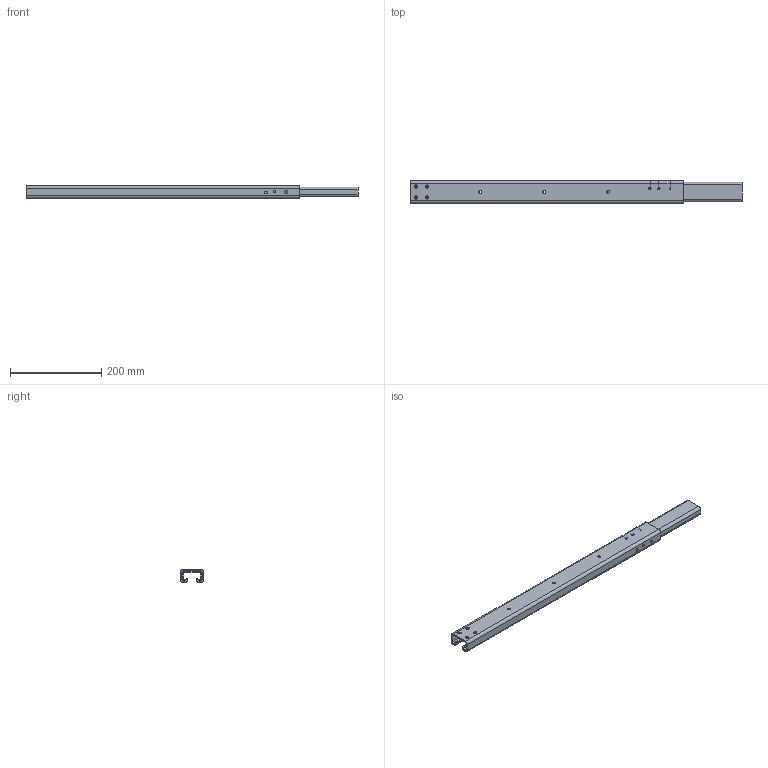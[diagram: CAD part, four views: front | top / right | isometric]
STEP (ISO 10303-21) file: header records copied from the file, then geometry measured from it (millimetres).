
FILE_DESCRIPTION(('CATIA V5 STEP Exchange'),'2;1');
FILE_NAME('Y:\Mr RICHARD\36329 RFQ N° 1041888 IBEV-2017-175 - USIN_LOT8 - Outillages de Manutention VOLGAERO\DOC-8017504426\36329-COULISSE.stp','2018-03-23T11:03:45+00:00',('none'),('none'),'CATIA Version 5 Release 19 SP 9 (IN-10)','CATIA V5 STEP AP203','none');
FILE_SCHEMA(('CONFIG_CONTROL_DESIGN'));
Length unit declared in the file: millimetre
Products named in the file (1): 36329-COULISSE 
Assembly tree (2 placements, depth 2):
  36329-COULISSE 
    #58
    #7759
Bounding box: 727.25 x 50 x 28 mm (x, y, z)
Volume: 320511.9 mm3; surface area: 221648.7 mm2
Topology: 2 solids, 2 shells, 269 faces, 762 edges, 504 vertices
Faces by surface type: plane 209, cylinder 54, cone 6
Entity records: 8442 total; most frequent: ORIENTED_EDGE 1524, CARTESIAN_POINT 1496, DIRECTION 1222, EDGE_CURVE 762, VECTOR 648, LINE 648, VERTEX_POINT 504, AXIS2_PLACEMENT_3D 344
